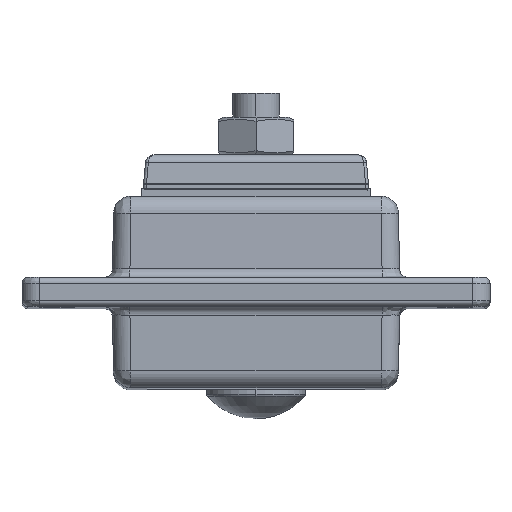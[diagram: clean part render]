
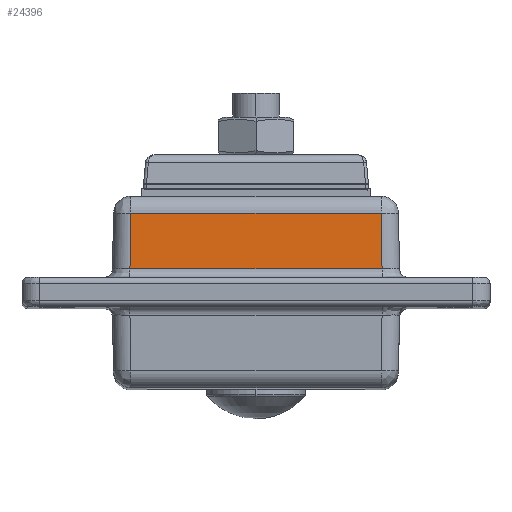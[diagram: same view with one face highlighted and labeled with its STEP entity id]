
A CAD part, top view. The second image highlights one B-rep face of the part: STEP entity #24396.
In plain terms, the highlighted planar face has unit normal (0, 0.018, 1).
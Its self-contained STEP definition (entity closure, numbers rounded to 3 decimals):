
#785 = CARTESIAN_POINT ( 'NONE',  ( -24.75, 0., 101.5 ) ) ;
#1469 = CARTESIAN_POINT ( 'NONE',  ( 21.681, 3.974, 101.431 ) ) ;
#2350 = AXIS2_PLACEMENT_3D ( 'NONE', #785, #24877, #6526 ) ;
#3803 = CARTESIAN_POINT ( 'NONE',  ( -20.711, 59.571, 100.46 ) ) ;
#5065 = CARTESIAN_POINT ( 'NONE',  ( -21.681, 3.974, 101.431 ) ) ;
#5293 = ORIENTED_EDGE ( 'NONE', *, *, #30909, .T. ) ;
#6526 = DIRECTION ( 'NONE',  ( 0., -1., 0.017 ) ) ;
#6863 = DIRECTION ( 'NONE',  ( -0.017, 1., -0.017 ) ) ;
#7034 = CARTESIAN_POINT ( 'NONE',  ( 21.681, 3.974, 101.431 ) ) ;
#8886 = VERTEX_POINT ( 'NONE', #7034 ) ;
#9352 = EDGE_CURVE ( 'NONE', #8886, #11806, #29837, .T. ) ;
#11806 = VERTEX_POINT ( 'NONE', #19495 ) ;
#13757 = CARTESIAN_POINT ( 'NONE',  ( -24.75, 13.552, 101.263 ) ) ;
#13990 = CARTESIAN_POINT ( 'NONE',  ( -21.514, 13.552, 101.263 ) ) ;
#14335 = VECTOR ( 'NONE', #24809, 1000. ) ;
#15774 = VECTOR ( 'NONE', #27889, 1000. ) ;
#16289 = ORIENTED_EDGE ( 'NONE', *, *, #9352, .T. ) ;
#17498 = VECTOR ( 'NONE', #19980, 1000. ) ;
#18341 = LINE ( 'NONE', #3803, #17498 ) ;
#18773 = FACE_OUTER_BOUND ( 'NONE', #27852, .T. ) ;
#19066 = ORIENTED_EDGE ( 'NONE', *, *, #24864, .F. ) ;
#19495 = CARTESIAN_POINT ( 'NONE',  ( 21.514, 13.552, 101.263 ) ) ;
#19980 = DIRECTION ( 'NONE',  ( 0.017, 1., -0.017 ) ) ;
#22347 = PLANE ( 'NONE',  #2350 ) ;
#22459 = CARTESIAN_POINT ( 'NONE',  ( -22.094, 3.974, 101.431 ) ) ;
#23823 = VERTEX_POINT ( 'NONE', #13990 ) ;
#24314 = ORIENTED_EDGE ( 'NONE', *, *, #29071, .T. ) ;
#24396 = ADVANCED_FACE ( 'NONE', ( #18773 ), #22347, .T. ) ;
#24809 = DIRECTION ( 'NONE',  ( -1., 0., 0. ) ) ;
#24864 = EDGE_CURVE ( 'NONE', #31120, #23823, #18341, .T. ) ;
#24877 = DIRECTION ( 'NONE',  ( 0., 0.017, 1. ) ) ;
#26974 = LINE ( 'NONE', #22459, #15774 ) ;
#27852 = EDGE_LOOP ( 'NONE', ( #16289, #24314, #19066, #5293 ) ) ;
#27889 = DIRECTION ( 'NONE',  ( 1., 0., 0. ) ) ;
#29071 = EDGE_CURVE ( 'NONE', #11806, #23823, #31409, .T. ) ;
#29837 = LINE ( 'NONE', #1469, #30275 ) ;
#30275 = VECTOR ( 'NONE', #6863, 1000. ) ;
#30909 = EDGE_CURVE ( 'NONE', #31120, #8886, #26974, .T. ) ;
#31120 = VERTEX_POINT ( 'NONE', #5065 ) ;
#31409 = LINE ( 'NONE', #13757, #14335 ) ;
